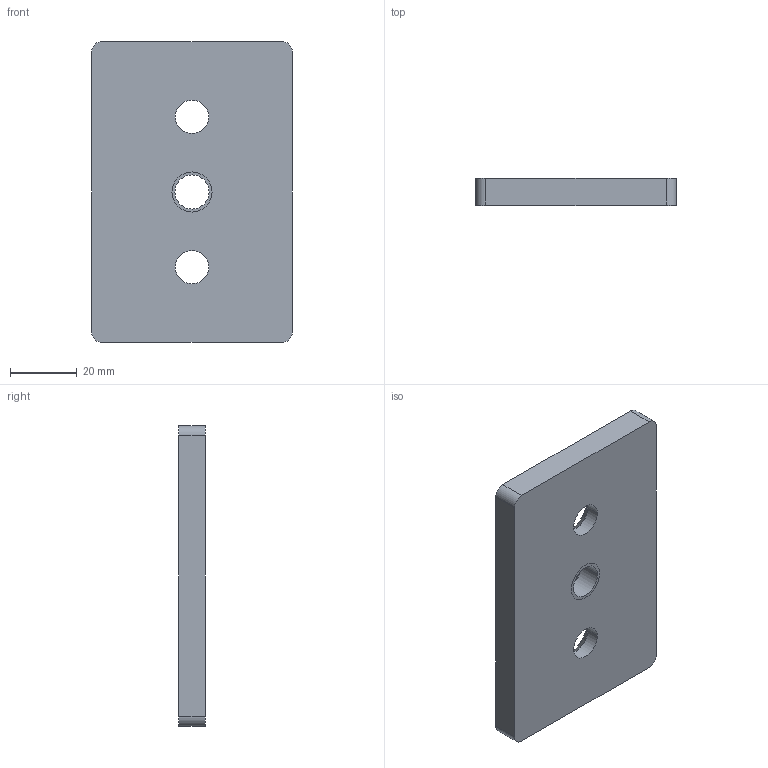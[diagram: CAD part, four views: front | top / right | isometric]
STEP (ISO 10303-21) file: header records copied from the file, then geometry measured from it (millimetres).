
FILE_DESCRIPTION((''),'2;1');
FILE_NAME('TAF609012','2002-12-27T',('Lipro doo'),('Lipro d.o.o.'),'PRO/ENGINEER BY PARAMETRIC TECHNOLOGY CORPORATION, 2001150','PRO/ENGINEER BY PARAMETRIC TECHNOLOGY CORPORATION, 2001150','');
FILE_SCHEMA(('CONFIG_CONTROL_DESIGN'));
Length unit declared in the file: millimetre
Products named in the file (1): TAF609012
Bounding box: 60 x 8 x 90 mm (x, y, z)
Volume: 40562.9 mm3; surface area: 13584.8 mm2
Topology: 1 solids, 2 shells, 24 faces, 60 edges, 38 vertices
Faces by surface type: cylinder 12, plane 6, cone 6
Entity records: 782 total; most frequent: DIRECTION 140, CARTESIAN_POINT 123, ORIENTED_EDGE 116, EDGE_CURVE 60, AXIS2_PLACEMENT_3D 55, VERTEX_POINT 38, VECTOR 30, LINE 30
